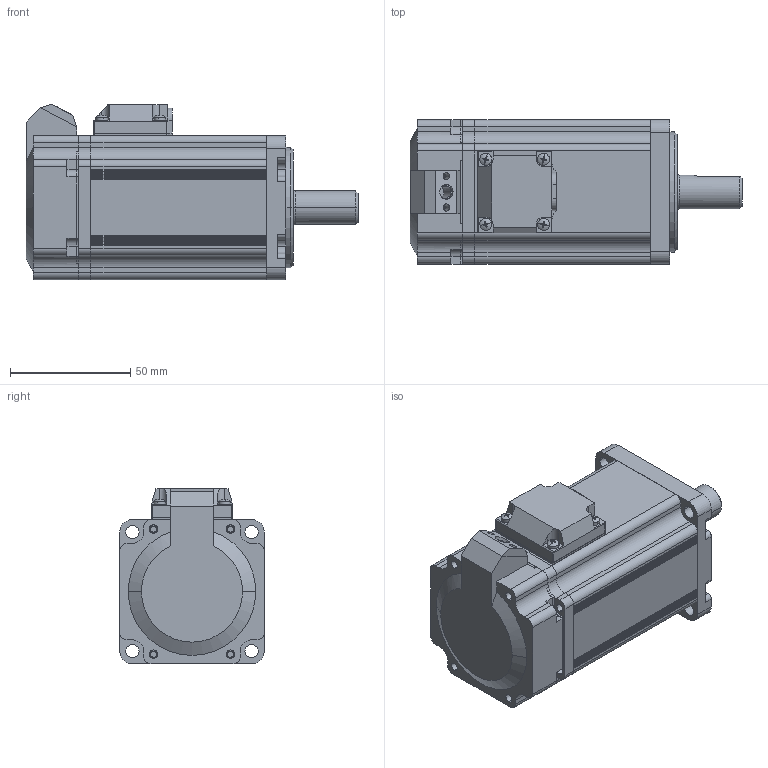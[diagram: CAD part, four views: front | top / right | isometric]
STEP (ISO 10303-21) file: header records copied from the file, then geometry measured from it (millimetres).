
FILE_DESCRIPTION (( 'STEP AP203' ), '1' );
FILE_NAME ('MS6S-60C30B1-20P40000000.STEP', '2022-03-02T10:46:44', ( '' ), ( '' ), 'SwSTEP 2.0', 'SolidWorks 2016', '' );
FILE_SCHEMA (( 'CONFIG_CONTROL_DESIGN' ));
Length unit declared in the file: millimetre
Products named in the file (2): MS6S-60C30B1-20P40000000
Bounding box: 138 x 60 x 73 mm (x, y, z)
Surface area: 44185 mm2 (no closed solid volume)
Topology: 0 solids, 18 shells, 460 faces, 1502 edges, 1046 vertices
Faces by surface type: cylinder 260, plane 172, cone 11, sphere 8, torus 8, bspline 1
Entity records: 17370 total; most frequent: CARTESIAN_POINT 3559, DIRECTION 3142, ORIENTED_EDGE 2510, EDGE_CURVE 1502, AXIS2_PLACEMENT_3D 1199, VERTEX_POINT 1046, VECTOR 744, LINE 744
